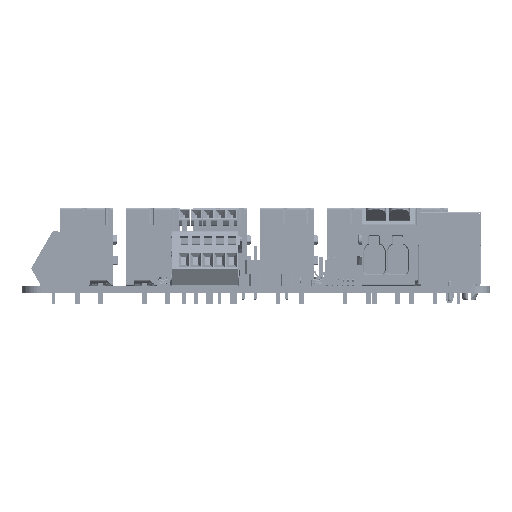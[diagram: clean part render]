
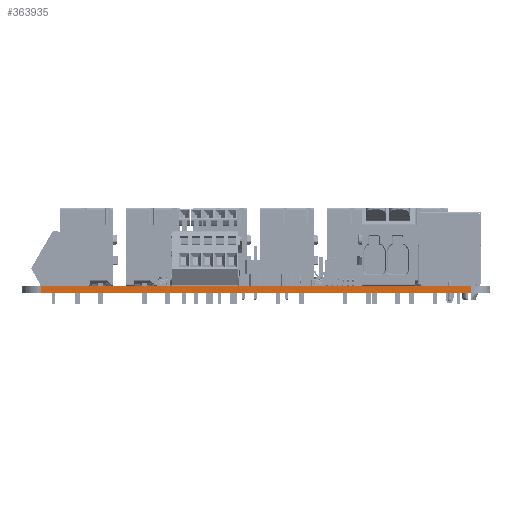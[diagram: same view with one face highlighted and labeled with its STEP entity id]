
A CAD part, left-side view. The second image highlights one B-rep face of the part: STEP entity #363935.
In plain terms, the highlighted planar face has unit normal (-1, 0, 0).
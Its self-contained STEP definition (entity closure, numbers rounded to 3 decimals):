
#363935 = ADVANCED_FACE('',(#363936),#363970,.F.);
#363936 = FACE_BOUND('',#363937,.F.);
#363937 = EDGE_LOOP('',(#363938,#363948,#363956,#363964));
#363938 = ORIENTED_EDGE('',*,*,#363939,.T.);
#363939 = EDGE_CURVE('',#363940,#363942,#363944,.T.);
#363940 = VERTEX_POINT('',#363941);
#363941 = CARTESIAN_POINT('',(73.84,-139.168,0.));
#363942 = VERTEX_POINT('',#363943);
#363943 = CARTESIAN_POINT('',(73.84,-139.168,-1.6));
#363944 = LINE('',#363945,#363946);
#363945 = CARTESIAN_POINT('',(73.84,-139.168,0.));
#363946 = VECTOR('',#363947,1.);
#363947 = DIRECTION('',(0.,0.,-1.));
#363948 = ORIENTED_EDGE('',*,*,#363949,.T.);
#363949 = EDGE_CURVE('',#363942,#363950,#363952,.T.);
#363950 = VERTEX_POINT('',#363951);
#363951 = CARTESIAN_POINT('',(73.84,-47.168,-1.6));
#363952 = LINE('',#363953,#363954);
#363953 = CARTESIAN_POINT('',(73.84,-139.168,-1.6));
#363954 = VECTOR('',#363955,1.);
#363955 = DIRECTION('',(0.,1.,0.));
#363956 = ORIENTED_EDGE('',*,*,#363957,.F.);
#363957 = EDGE_CURVE('',#363958,#363950,#363960,.T.);
#363958 = VERTEX_POINT('',#363959);
#363959 = CARTESIAN_POINT('',(73.84,-47.168,0.));
#363960 = LINE('',#363961,#363962);
#363961 = CARTESIAN_POINT('',(73.84,-47.168,0.));
#363962 = VECTOR('',#363963,1.);
#363963 = DIRECTION('',(0.,0.,-1.));
#363964 = ORIENTED_EDGE('',*,*,#363965,.F.);
#363965 = EDGE_CURVE('',#363940,#363958,#363966,.T.);
#363966 = LINE('',#363967,#363968);
#363967 = CARTESIAN_POINT('',(73.84,-139.168,0.));
#363968 = VECTOR('',#363969,1.);
#363969 = DIRECTION('',(0.,1.,0.));
#363970 = PLANE('',#363971);
#363971 = AXIS2_PLACEMENT_3D('',#363972,#363973,#363974);
#363972 = CARTESIAN_POINT('',(73.84,-139.168,0.));
#363973 = DIRECTION('',(1.,0.,0.));
#363974 = DIRECTION('',(0.,1.,0.));
